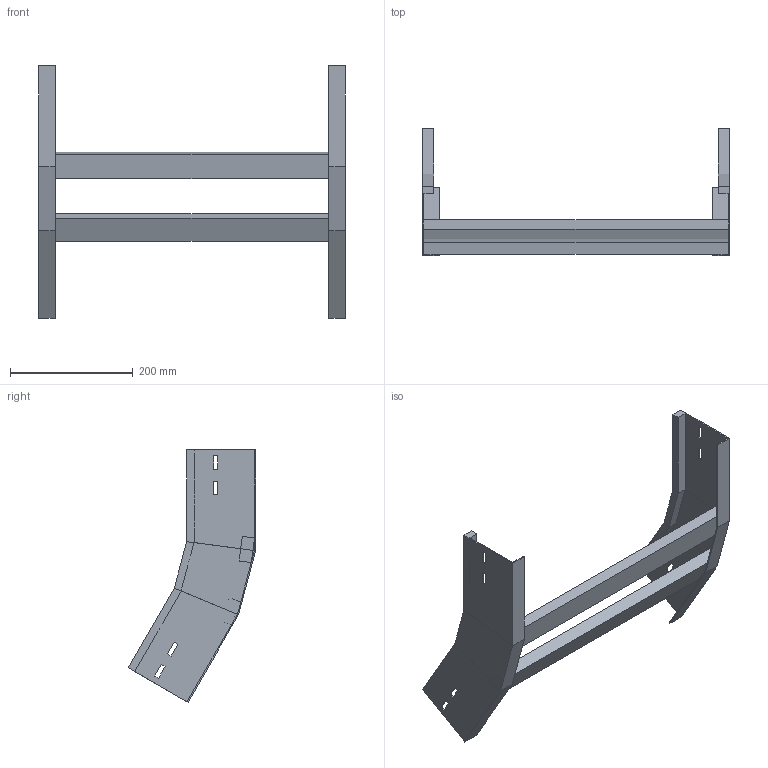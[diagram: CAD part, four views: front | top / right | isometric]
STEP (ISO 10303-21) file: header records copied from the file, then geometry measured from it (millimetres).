
FILE_DESCRIPTION (( 'STEP AP214' ), '1' );
FILE_NAME ('A2X32B3J500XX.step', '2025-03-20T09:59:20', ( '' ), ( '' ), 'SwSTEP 2.0', 'SolidWorks 2023', '' );
FILE_SCHEMA (( 'AUTOMOTIVE_DESIGN' ));
Length unit declared in the file: millimetre
Products named in the file (3): TRAVERSINO_500; LONGH.SALITA_30°_H112.5_R300; A2X32B3J500XX
Assembly tree (4 placements, depth 2):
  A2X32B3J500XX
    LONGH.SALITA_30°_H112.5_R300  x2
    TRAVERSINO_500  x2
Bounding box: 500 x 207.73 x 411.66 mm (x, y, z)
Volume: 1174668.9 mm3; surface area: 378458 mm2
Topology: 4 solids, 4 shells, 96 faces, 232 edges, 144 vertices
Faces by surface type: plane 96
Entity records: 1472 total; most frequent: CARTESIAN_POINT 243, ORIENTED_EDGE 232, DIRECTION 226, LINE 116, VECTOR 116, EDGE_CURVE 116, VERTEX_POINT 72, EDGE_LOOP 56
